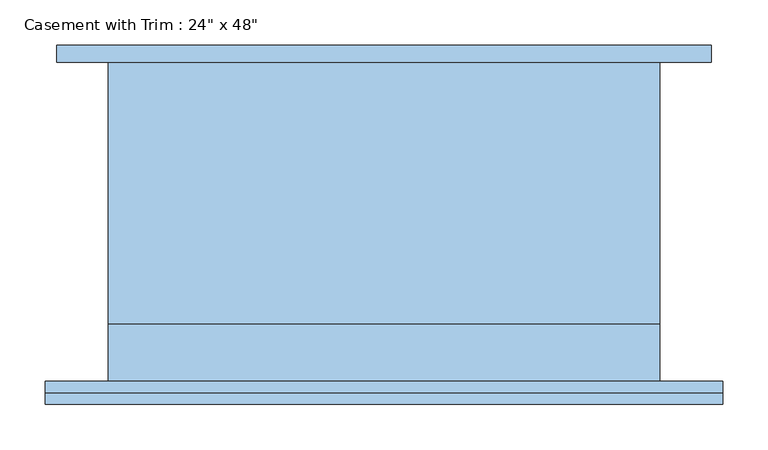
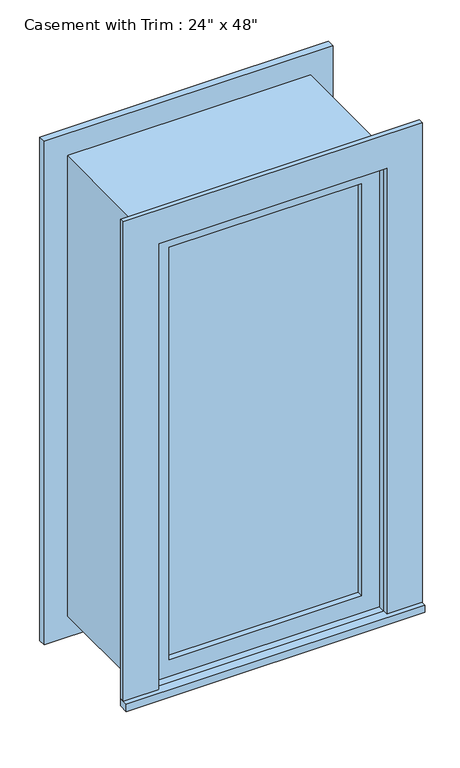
"""IFC4 building model written with IfcOpenShell, lengths in millimetres: window geometry."""

from ifc_helpers import new_model, si_unit, frame, origin, place, context, project, spatial, polyline, outline, extrude, source, transform, mapped, element, save


def window_5cb77ff5(model_context):
    return source(origin(), model_context, "Body", "SweptSolid", [
        extrude(outline(polyline([(-374.65, -201.6125), (-374.65, -176.2125), (374.65, -176.2125), (374.65, -201.6125), (-374.65, -201.6125)])), frame((0.0, 0.0, 914.4), z_axis=(0.0, 0.0, 1.0), x_axis=(1.0, 0.0, 0.0)), (0.0, 0.0, 1.0), 19.05),
        extrude(outline(polyline([(2114.55, -285.75), (2114.55, 285.75), (933.45, 285.75), (933.45, 374.65), (2203.45, 374.65), (2203.45, -374.65), (933.45, -374.65), (933.45, -285.75), (2114.55, -285.75)])), frame((0.0, -188.9125, 0.0), z_axis=(0.0, 1.0, 0.0), x_axis=(0.0, 0.0, 1.0)), (0.0, 0.0, 1.0), 12.7),
        extrude(outline(polyline([(2190.75, 361.95), (2190.75, -361.95), (857.25, -361.95), (857.25, 361.95), (2190.75, 361.95)]), holes=[polyline([(2101.85, 273.05), (946.15, 273.05), (946.15, -273.05), (2101.85, -273.05), (2101.85, 273.05)])]), frame((0.0, 176.2125, 0.0), z_axis=(0.0, 1.0, 0.0), x_axis=(0.0, 0.0, 1.0)), (0.0, 0.0, 1.0), 19.05),
        extrude(outline(polyline([(241.3, -128.5875), (241.3, -141.2875), (-241.3, -141.2875), (-241.3, -128.5875), (241.3, -128.5875)])), frame((0.0, 0.0, 977.9), z_axis=(0.0, 0.0, 1.0), x_axis=(1.0, 0.0, 0.0)), (0.0, 0.0, 1.0), 1092.2),
        extrude(outline(polyline([(2114.55, -285.75), (933.45, -285.75), (933.45, 285.75), (2114.55, 285.75), (2114.55, -285.75)]), holes=[polyline([(2070.1, -241.3), (2070.1, 241.3), (977.9, 241.3), (977.9, -241.3), (2070.1, -241.3)])]), frame((0.0, -157.1625, 0.0), z_axis=(0.0, 1.0, 0.0), x_axis=(0.0, 0.0, 1.0)), (0.0, 0.0, 1.0), 44.45),
        extrude(outline(polyline([(2133.6, -304.8), (914.4, -304.8), (914.4, 304.8), (2133.6, 304.8), (2133.6, -304.8)]), holes=[polyline([(2101.85, -273.05), (2101.85, 273.05), (946.15, 273.05), (946.15, -273.05), (2101.85, -273.05)])]), frame((0.0, -112.7125, 0.0), z_axis=(0.0, 1.0, 0.0), x_axis=(0.0, 0.0, 1.0)), (0.0, 0.0, 1.0), 288.925),
        extrude(outline(polyline([(2133.6, 304.8), (2133.6, -304.8), (914.4, -304.8), (914.4, 304.8), (2133.6, 304.8)]), holes=[polyline([(2114.55, 285.75), (933.45, 285.75), (933.45, -285.75), (2114.55, -285.75), (2114.55, 285.75)])]), frame((0.0, -176.2125, 0.0), z_axis=(0.0, 1.0, 0.0), x_axis=(0.0, 0.0, 1.0)), (0.0, 0.0, 1.0), 63.5),
    ])


if __name__ == "__main__":
    model = new_model("IFC4")
    model_context = context("Model", 3, world=origin())
    ifc_project = project(units=[si_unit("LENGTHUNIT", "METRE", prefix="MILLI")], contexts=[model_context])
    site = spatial("IfcSite", under=ifc_project)
    building = spatial("IfcBuilding", under=site)
    placement = place(None, origin())
    window_shape = window_5cb77ff5(model_context)
    element("IfcWindow", 1, ObjectType="Casement with Trim : 24\" x 48\"", at=placement, inside=building, context=model_context, shape_type="MappedRepresentation", body=[
        mapped(window_shape, transform((0.0, 0.0, 0.0), x_axis=(1.0, 0.0, 0.0), y_axis=(0.0, 1.0, 0.0), z_axis=(0.0, 0.0, 1.0))),
    ])
    save(model, "model.ifc")
